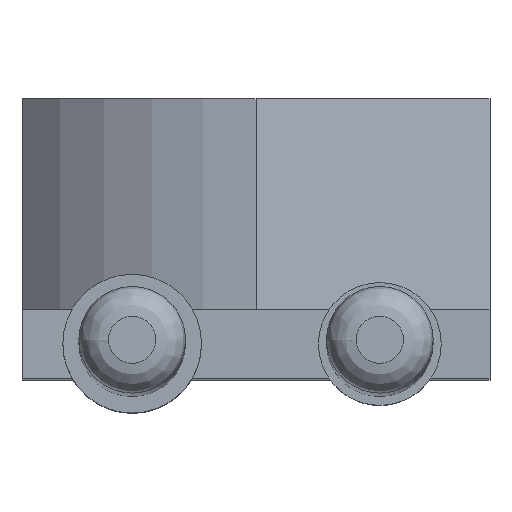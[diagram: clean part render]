
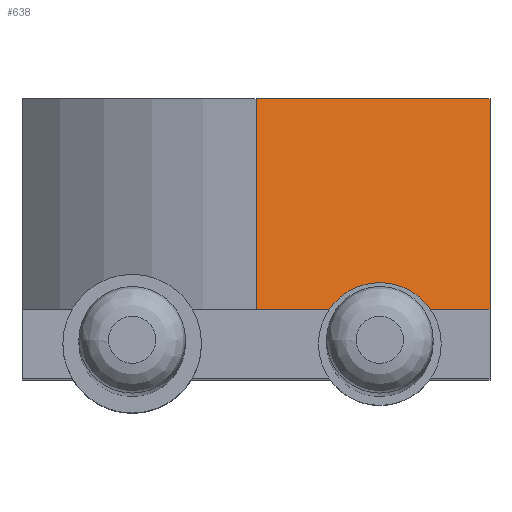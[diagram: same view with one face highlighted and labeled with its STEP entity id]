
A CAD part, top view. The second image highlights one B-rep face of the part: STEP entity #638.
In plain terms, the highlighted planar face has unit normal (0.411, 0, 0.911).
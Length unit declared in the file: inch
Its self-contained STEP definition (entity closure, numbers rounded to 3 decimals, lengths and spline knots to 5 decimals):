
#89=FACE_OUTER_BOUND('',#135,.T.);
#135=EDGE_LOOP('',(#514,#515,#516,#517));
#194=LINE('',#1029,#252);
#208=LINE('',#1055,#266);
#209=LINE('',#1058,#267);
#210=LINE('',#1059,#268);
#252=VECTOR('',#824,0.3937);
#266=VECTOR('',#850,0.3937);
#267=VECTOR('',#853,0.3937);
#268=VECTOR('',#854,0.3937);
#306=VERTEX_POINT('',#1026);
#307=VERTEX_POINT('',#1028);
#313=VERTEX_POINT('',#1052);
#314=VERTEX_POINT('',#1057);
#370=EDGE_CURVE('',#306,#307,#194,.T.);
#384=EDGE_CURVE('',#313,#307,#208,.T.);
#385=EDGE_CURVE('',#313,#314,#209,.T.);
#386=EDGE_CURVE('',#314,#306,#210,.T.);
#514=ORIENTED_EDGE('',*,*,#385,.F.);
#515=ORIENTED_EDGE('',*,*,#384,.T.);
#516=ORIENTED_EDGE('',*,*,#370,.F.);
#517=ORIENTED_EDGE('',*,*,#386,.F.);
#604=PLANE('',#707);
#638=ADVANCED_FACE('',(#89),#604,.T.);
#707=AXIS2_PLACEMENT_3D('',#1056,#851,#852);
#824=DIRECTION('',(0.911,0.,-0.411));
#850=DIRECTION('',(0.,1.,0.));
#851=DIRECTION('center_axis',(0.411,0.,0.911));
#852=DIRECTION('ref_axis',(0.911,0.,-0.411));
#853=DIRECTION('',(-0.911,0.,0.411));
#854=DIRECTION('',(0.,1.,0.));
#1026=CARTESIAN_POINT('',(0.,0.14161,0.12));
#1028=CARTESIAN_POINT('',(0.11811,0.14161,0.06668));
#1029=CARTESIAN_POINT('',(0.11811,0.14161,0.06668));
#1052=CARTESIAN_POINT('',(0.11811,0.035,0.06668));
#1055=CARTESIAN_POINT('',(0.11811,0.035,0.06668));
#1056=CARTESIAN_POINT('Origin',(0.,0.035,0.12));
#1057=CARTESIAN_POINT('',(0.,0.035,0.12));
#1058=CARTESIAN_POINT('',(0.11811,0.035,0.06668));
#1059=CARTESIAN_POINT('',(0.,0.035,0.12));
